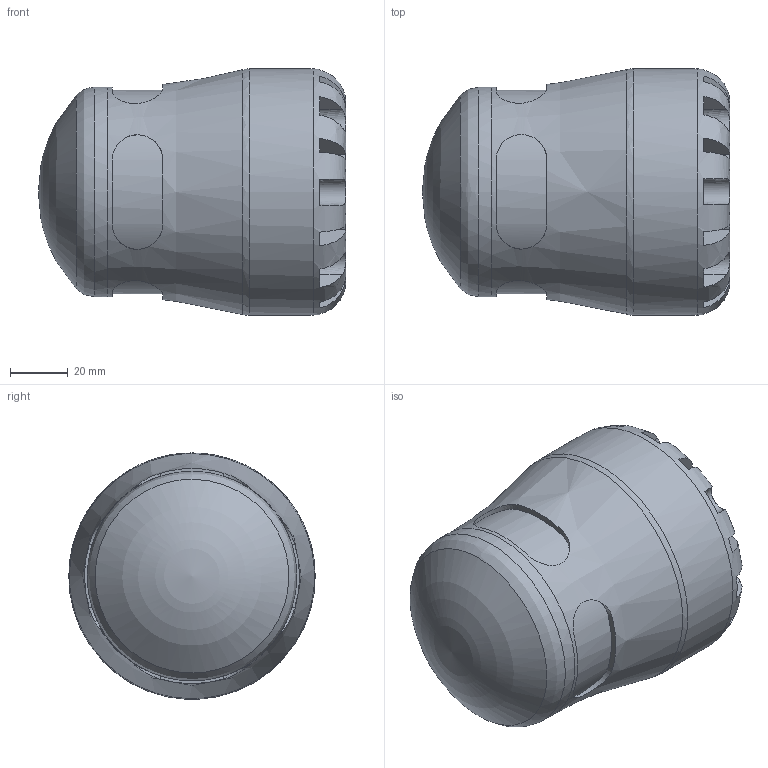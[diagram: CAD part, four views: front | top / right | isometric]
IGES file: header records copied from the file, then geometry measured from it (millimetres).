
Global section: file name: 151200050; native system: Autodesk Inventor 2019; preprocessor: unknown; author: KIM; date: 20231021.225220; units: millimetre
Bounding box: 106 x 85 x 84.93 mm (x, y, z)
Volume: 295725 mm3; surface area: 47769.8 mm2
Topology: 1 solids, 1 shells, 95 faces, 249 edges, 160 vertices
Faces by surface type: bspline 95
